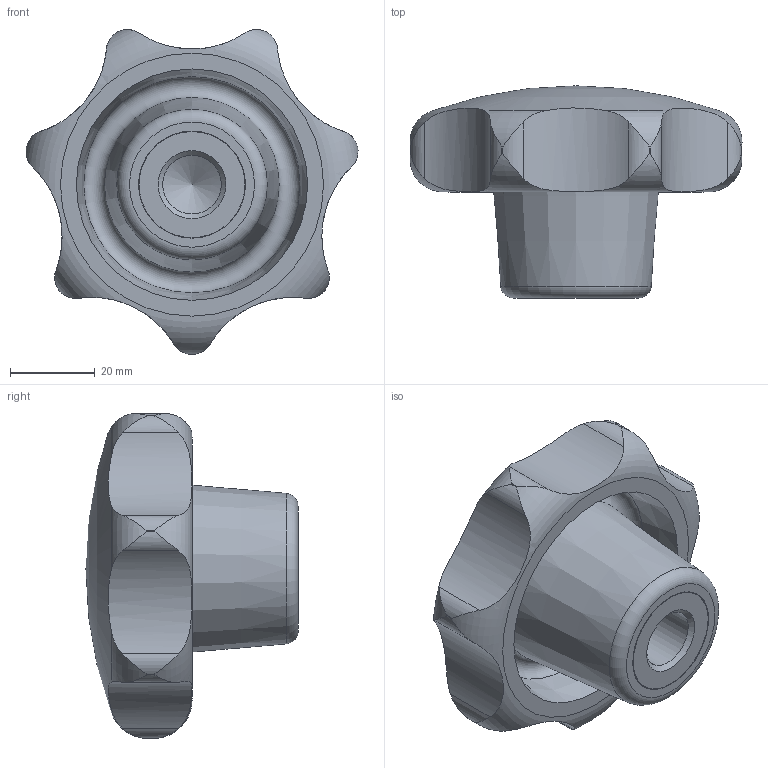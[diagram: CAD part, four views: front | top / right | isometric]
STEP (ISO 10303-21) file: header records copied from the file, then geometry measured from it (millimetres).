
FILE_DESCRIPTION( ( 'STEP AP203' ), '1' );
FILE_NAME( 'C:/Temp/Ganter_Step_05_03_2020/data/2_2/din_6336/din_6336_ku/din_6336_ku_k/Star knob DIN 6336-KU-80-M16-K-NI.stp', '2020-03-05T12:13:41', ( 'License CC BY-ND 4.0' ), ( 'CADENAS' ), ' ', 'PARTsolutions', ' ' );
FILE_SCHEMA( ( 'CONFIG_CONTROL_DESIGN' ) );
Length unit declared in the file: millimetre
Products named in the file (1): _Star knob DIN 6336-KU-80-M16-K-NI
Bounding box: 78.23 x 50 x 76.53 mm (x, y, z)
Volume: 96090.4 mm3; surface area: 18715.7 mm2
Topology: 1 solids, 1 shells, 50 faces, 133 edges, 87 vertices
Faces by surface type: cylinder 31, torus 10, plane 4, cone 4, sphere 1
Full cylindrical faces by diameter (mm): 13.835 x1, 25 x1, 25.2 x1
Entity records: 2332 total; most frequent: CARTESIAN_POINT 1186, ORIENTED_EDGE 236, DIRECTION 198, EDGE_CURVE 118, AXIS2_PLACEMENT_3D 85, VERTEX_POINT 85, EDGE_LOOP 63, FACE_OUTER_BOUND 56
